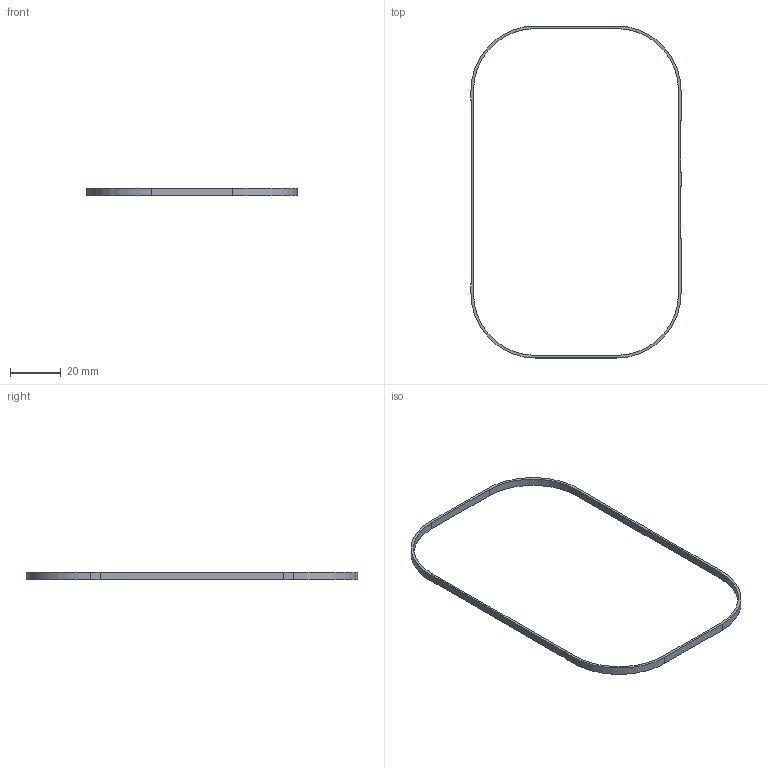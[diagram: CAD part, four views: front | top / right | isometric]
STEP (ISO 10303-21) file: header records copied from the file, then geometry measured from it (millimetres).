
FILE_DESCRIPTION(('Open CASCADE Model'),'2;1');
FILE_NAME('Open CASCADE Shape Model','2026-09-08T16:16:29',('Author'),( 'Open CASCADE'),'Open CASCADE STEP processor 7.7','Open CASCADE 7.7' ,'Unknown');
FILE_SCHEMA(('AUTOMOTIVE_DESIGN { 1 0 10303 214 1 1 1 1 }'));
Length unit declared in the file: millimetre
Products named in the file (1): Open CASCADE STEP translator 7.7 8
Bounding box: 82.8 x 130.8 x 3 mm (x, y, z)
Volume: 1073.4 mm3; surface area: 3001.9 mm2
Topology: 1 solids, 1 shells, 30 faces, 84 edges, 56 vertices
Faces by surface type: plane 22, cylinder 8
Entity records: 2046 total; most frequent: CARTESIAN_POINT 435, DIRECTION 274, LINE 172, VECTOR 172, ORIENTED_EDGE 168, PCURVE 168, DEFINITIONAL_REPRESENTATION 168, EDGE_CURVE 84
